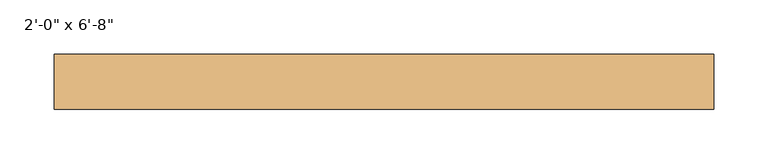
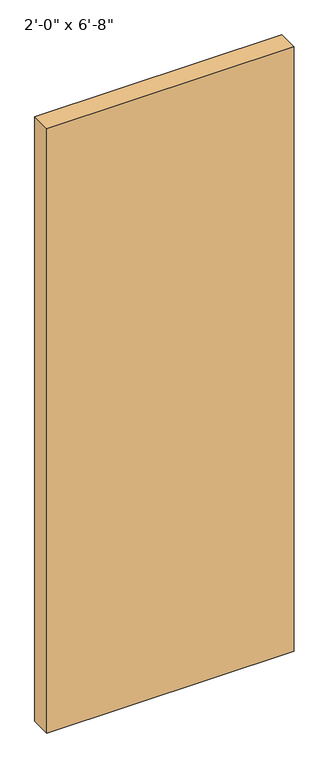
"""IFC4 building model written with IfcOpenShell, lengths in millimetres: door geometry."""

from ifc_helpers import new_model, si_unit, origin, origin_with_axes, place, context, project, spatial, polyline, outline, extrude, source, transform, mapped, element, save


def door_0eaff616(model_context):
    return source(origin(), model_context, "Body", "SweptSolid", [
        extrude(outline(polyline([(304.8, -6.1515625), (304.8, -57.15), (-304.8, -57.15), (-304.8, -6.1515625), (304.8, -6.1515625)])), origin_with_axes(), (0.0, 0.0, 1.0), 1574.8),
    ])


if __name__ == "__main__":
    model = new_model("IFC4")
    model_context = context("Model", 3, world=origin())
    ifc_project = project(units=[si_unit("LENGTHUNIT", "METRE", prefix="MILLI")], contexts=[model_context])
    site = spatial("IfcSite", under=ifc_project)
    building = spatial("IfcBuilding", under=site)
    placement = place(None, origin())
    door_shape = door_0eaff616(model_context)
    element("IfcDoor", 1, ObjectType="Planitar - Single Door_Flush Panel : 2'-0\" x 6'-8\"", at=placement, inside=building, context=model_context, shape_type="MappedRepresentation", body=[
        mapped(door_shape, transform((0.0, 0.0, 0.0), x_axis=(1.0, 0.0, 0.0), y_axis=(0.0, 1.0, 0.0), z_axis=(0.0, 0.0, 1.0))),
    ])
    save(model, "model.ifc")
